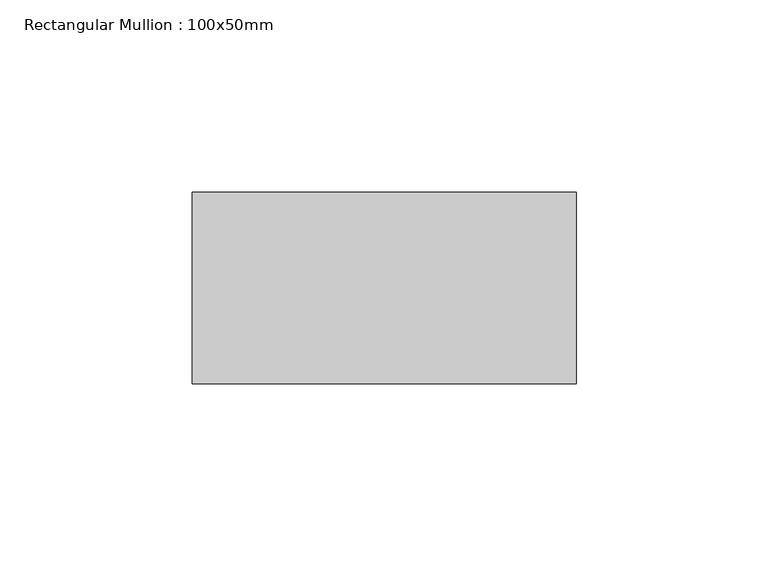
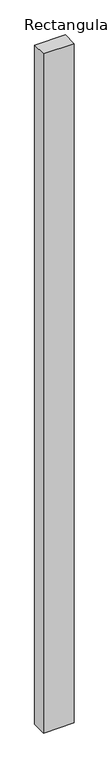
"""IFC4 building model written with IfcOpenShell, lengths in millimetres: member geometry, Rectangular Mullion : 100x50mm."""

import ifcopenshell
import ifcopenshell.guid

model = None  # the IFC model being written
_history = None  # IfcOwnerHistory: only IFC2X3 demands one
_inside = {}  # id of a spatial element -> (the spatial element, [elements in it])
_under = {}  # id of a project, library or spatial element -> (it, [spatial elements below it])
_declared = {}  # id of a project -> (the project, [libraries it declares])
_typed = {}  # id of a type object -> (the type object, [elements of that type])
_made_of = {}  # id of a material, layer set ... -> (it, [elements and type objects made of it])


def new_model(schema):
    """Start an empty IFC model of exactly this schema.

    Asked for "IFC4X3", IfcOpenShell would pick the latest addendum, in which some entities
    have other attributes; the version numbers below select the first issue.
    IFC2X3 requires an IfcOwnerHistory on every rooted entity: one is made here for all.
    """
    global model, _history
    if schema == "IFC4X3":
        model = ifcopenshell.file(schema_version=(4, 3, 0, 0))
    else:
        model = ifcopenshell.file(schema=schema)
    _inside.clear()
    _under.clear()
    _declared.clear()
    _typed.clear()
    _made_of.clear()
    _history = None
    if model.schema == "IFC2X3":
        org = make("IfcOrganization", Name="unknown")
        user = make(
            "IfcPersonAndOrganization",
            ThePerson=make("IfcPerson", FamilyName="unknown"),
            TheOrganization=org,
        )
        app = make(
            "IfcApplication",
            ApplicationDeveloper=org,
            Version="unknown",
            ApplicationFullName="unknown",
            ApplicationIdentifier="unknown",
        )
        _history = make(
            "IfcOwnerHistory",
            OwningUser=user,
            OwningApplication=app,
            ChangeAction="ADDED",
            CreationDate=0,
        )
    return model


def make(cls, **values):
    """One entity of the class cls with the attributes given. An attribute that is None is left unset."""
    return model.create_entity(
        cls, **{name: value for name, value in values.items() if value is not None}
    )


def rooted(cls, **values):
    """An entity with a GlobalId (a new one), such as an element, a storey or a relation."""
    return make(cls, GlobalId=ifcopenshell.guid.new(), OwnerHistory=_history, **values)


def si_unit(unit_type, name, prefix=None):
    """IfcSIUnit, for example si_unit("LENGTHUNIT", "METRE", prefix="MILLI")."""
    return make("IfcSIUnit", UnitType=unit_type, Prefix=prefix, Name=name)


def assignment(units):
    """IfcUnitAssignment: the units of a project."""
    return None if units is None else make("IfcUnitAssignment", Units=units)


def point(xyz):
    """IfcCartesianPoint."""
    return None if xyz is None else make("IfcCartesianPoint", Coordinates=xyz)


def direction(xyz):
    """IfcDirection."""
    return None if xyz is None else make("IfcDirection", DirectionRatios=xyz)


def frame(location, z_axis=None, x_axis=None):
    """IfcAxis2Placement3D, a coordinate frame: its origin and axes. An axis left out is left unset."""
    return make(
        "IfcAxis2Placement3D",
        Location=point(location),
        Axis=direction(z_axis),
        RefDirection=direction(x_axis),
    )


def origin():
    """The frame at (0, 0, 0) with its axes left unset."""
    return frame((0.0, 0.0, 0.0))


def place(relative_to, where):
    """IfcLocalPlacement: puts the frame where relative to a parent placement (None: the world)."""
    return make(
        "IfcLocalPlacement", PlacementRelTo=relative_to, RelativePlacement=where
    )


def context(
    kind, dimensions, precision=None, world=None, true_north=None, identifier=None
):
    """IfcGeometricRepresentationContext, for example the 3D "Model" context."""
    return make(
        "IfcGeometricRepresentationContext",
        ContextIdentifier=identifier,
        ContextType=kind,
        CoordinateSpaceDimension=dimensions,
        Precision=precision,
        WorldCoordinateSystem=world,
        TrueNorth=true_north,
    )


def project(units=None, contexts=None):
    """IfcProject with its units and contexts."""
    return rooted(
        "IfcProject",
        Name="project",
        RepresentationContexts=contexts,
        UnitsInContext=assignment(units),
    )


def spatial(cls, under=None, at=None, **own):
    """A site, building, storey or space (cls), placed at a placement, below another one or the project."""
    s = rooted(cls, ObjectPlacement=at, **own)
    if under is not None:
        _under.setdefault(under.id(), (under, []))[1].append(s)
    return s


def polyline(points):
    """IfcPolyline through the points."""
    return make("IfcPolyline", Points=[point(p) for p in points])


def outline(outer, holes=None, kind="AREA"):
    """IfcArbitraryClosedProfileDef: a profile drawn as a closed curve; with holes, ...WithVoids."""
    if holes is None:
        return make("IfcArbitraryClosedProfileDef", ProfileType=kind, OuterCurve=outer)
    return make(
        "IfcArbitraryProfileDefWithVoids",
        ProfileType=kind,
        OuterCurve=outer,
        InnerCurves=holes,
    )


def extrude(swept, where, along, depth):
    """IfcExtrudedAreaSolid: the profile swept, set in the frame where, extruded along a direction by depth."""
    return make(
        "IfcExtrudedAreaSolid",
        SweptArea=swept,
        Position=where,
        ExtrudedDirection=direction(along),
        Depth=depth,
    )


def shape(context_of_items, identifier, shape_type, items):
    """IfcShapeRepresentation: the items that make up one representation, for example the "Body"."""
    return make(
        "IfcShapeRepresentation",
        ContextOfItems=context_of_items,
        RepresentationIdentifier=identifier,
        RepresentationType=shape_type,
        Items=items,
    )


def source(mapping_origin, context_of_items, identifier, shape_type, items):
    """IfcRepresentationMap: a shape defined once, which mapped items show again and again."""
    return make(
        "IfcRepresentationMap",
        MappingOrigin=mapping_origin,
        MappedRepresentation=shape(context_of_items, identifier, shape_type, items),
    )


def transform(
    local_origin,
    x_axis=None,
    y_axis=None,
    z_axis=None,
    scale=None,
    scale2=None,
    scale3=None,
    uniform=True,
):
    """IfcCartesianTransformationOperator3D, or its non-uniform kind. x_axis, y_axis, z_axis: its Axis1, 2, 3."""
    if uniform:
        return make(
            "IfcCartesianTransformationOperator3D",
            Axis1=direction(x_axis),
            Axis2=direction(y_axis),
            LocalOrigin=point(local_origin),
            Scale=scale,
            Axis3=direction(z_axis),
        )
    return make(
        "IfcCartesianTransformationOperator3DnonUniform",
        Axis1=direction(x_axis),
        Axis2=direction(y_axis),
        LocalOrigin=point(local_origin),
        Scale=scale,
        Axis3=direction(z_axis),
        Scale2=scale2,
        Scale3=scale3,
    )


def mapped(mapping_source, mapping_target):
    """IfcMappedItem: shows the shape of a source again, moved by a transform."""
    return make(
        "IfcMappedItem", MappingSource=mapping_source, MappingTarget=mapping_target
    )


def made_of(thing, what):
    """Note that an element or type object is made of a material, layer set ...; save() writes the relation."""
    if what is not None:
        _made_of.setdefault(what.id(), (what, []))[1].append(thing)
    return thing


def element(
    cls,
    number,
    at=None,
    inside=None,
    cuts=None,
    type_object=None,
    material=None,
    context=None,
    identifier="Body",
    shape_type=None,
    held_by="IfcProductDefinitionShape",
    body=None,
    shapes=None,
    **own,
):
    """One element of the class cls, such as IfcWall. Its Tag is "e" and its number.

    at: its placement. inside: the storey or other place that contains it. cuts: it is an
    opening in that element (IfcRelVoidsElement). A single representation is given by context,
    identifier, shape_type and body (its items); several are given by shapes. held_by: the class
    of the entity that holds the representations. save() writes the other relations.
    """
    e = rooted(cls, Tag="e%d" % number, ObjectPlacement=at, **own)
    if body is not None:
        shapes = [shape(context, identifier, shape_type, body)]
    if shapes is not None:
        e.Representation = make(held_by, Representations=shapes)
    if inside is not None:
        _inside.setdefault(inside.id(), (inside, []))[1].append(e)
    if cuts is not None:
        rooted(
            "IfcRelVoidsElement", RelatingBuildingElement=cuts, RelatedOpeningElement=e
        )
    if type_object is not None:
        _typed.setdefault(type_object.id(), (type_object, []))[1].append(e)
    return made_of(e, material)


def aggregate(whole, parts):
    """IfcRelAggregates: a whole, such as a stair, and the parts it consists of."""
    return rooted("IfcRelAggregates", RelatingObject=whole, RelatedObjects=parts)


def save(model, path):
    """Write the relations noted so far, then the file.

    IfcRelAggregates (storeys below a building ...), IfcRelContainedInSpatialStructure (elements
    in a storey), IfcRelDefinesByType, IfcRelAssociatesMaterial and IfcRelDeclares: one each for
    every whole, place, type object, material and project.
    """
    for whole, parts in _under.values():
        aggregate(whole, parts)
    for where, things in _inside.values():
        rooted(
            "IfcRelContainedInSpatialStructure",
            RelatedElements=things,
            RelatingStructure=where,
        )
    for kind, things in _typed.values():
        rooted("IfcRelDefinesByType", RelatedObjects=things, RelatingType=kind)
    for what, things in _made_of.values():
        rooted("IfcRelAssociatesMaterial", RelatedObjects=things, RelatingMaterial=what)
    for by, libraries in _declared.values():
        rooted("IfcRelDeclares", RelatingContext=by, RelatedDefinitions=libraries)
    model.write(path)


def rectangular_mullion_100x50mm_7382faa3(model_context):
    return source(origin(), model_context, "Body", "SweptSolid", [
        extrude(outline(polyline([(50.0, 25.0), (50.0, -25.0), (-50.0, -25.0), (-50.0, 25.0), (50.0, 25.0)])), frame((0.0, 0.0, -2344.915903), z_axis=(0.0, 0.0, 1.0), x_axis=(1.0, 0.0, 0.0)), (0.0, 0.0, 1.0), 2344.915903),
    ])


if __name__ == "__main__":
    model = new_model("IFC4")
    model_context = context("Model", 3, world=origin())
    ifc_project = project(units=[si_unit("LENGTHUNIT", "METRE", prefix="MILLI")], contexts=[model_context])
    site = spatial("IfcSite", under=ifc_project)
    building = spatial("IfcBuilding", under=site)
    placement = place(None, origin())
    rectangular_mullion_100x50mm_shape = rectangular_mullion_100x50mm_7382faa3(model_context)
    element("IfcMember", 1, ObjectType="Rectangular Mullion : 100x50mm", at=placement, inside=building, context=model_context, shape_type="MappedRepresentation", body=[
        mapped(rectangular_mullion_100x50mm_shape, transform((0.0, 0.0, 0.0), x_axis=(1.0, 0.0, 0.0), y_axis=(0.0, 1.0, 0.0), z_axis=(0.0, 0.0, 1.0))),
    ])
    save(model, "model.ifc")
